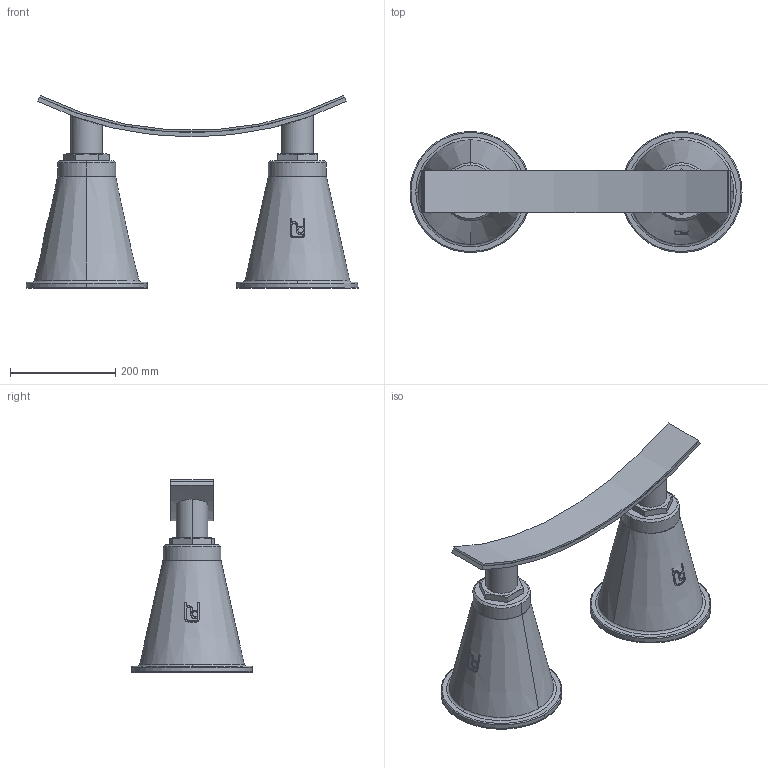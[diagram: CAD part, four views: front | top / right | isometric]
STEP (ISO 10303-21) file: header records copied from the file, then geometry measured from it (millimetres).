
FILE_DESCRIPTION(('STEP AP214'),'1');
FILE_NAME('RSRFA-DUO_DN1300.stp','2018-06-25T11:18:44',(' '),(' '),'Spatial InterOp 3D',' ',' ');
FILE_SCHEMA(('automotive_design'));
Length unit declared in the file: millimetre
Products named in the file (10): 1; 2; 3; 4; 5; 6; 7; 8; 9; 10
Bounding box: 630 x 230 x 366.18 mm (x, y, z)
Volume: 11753541.8 mm3; surface area: 921177.6 mm2
Topology: 10 solids, 13 shells, 209 faces, 498 edges, 322 vertices
Faces by surface type: plane 84, cylinder 77, cone 40, torus 8
Entity records: 9189 total; most frequent: CARTESIAN_POINT 2475, DIRECTION 1030, ORIENTED_EDGE 996, EDGE_CURVE 498, AXIS2_PLACEMENT_3D 405, VERTEX_POINT 322, EDGE_LOOP 226, LINE 220
